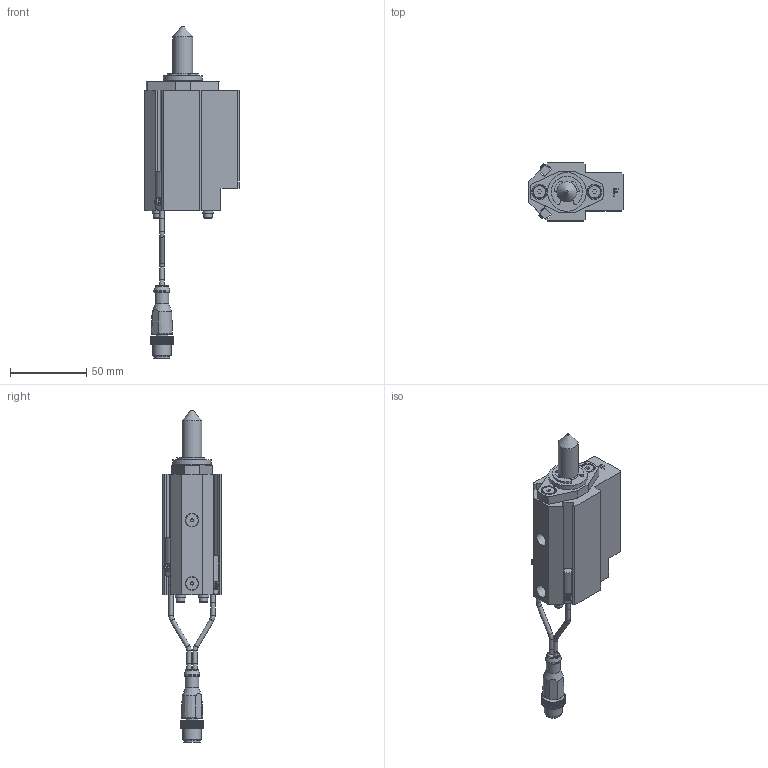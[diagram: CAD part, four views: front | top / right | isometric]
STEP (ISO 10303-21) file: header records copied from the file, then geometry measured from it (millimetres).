
FILE_DESCRIPTION(/* description */ ('NAAMS FLOATING MICRO PIN'),/* implementation_level */ '2;1');
FILE_NAME(/* name */ 'C:\Vault Workspace\CAD\Welker\Shot Pin\NMP\NMP130022AFNL3.stp',/* time_stamp */ '2021-01-27T10:56:55-05:00',/* author */ ('WELKER'),/* organization */ (''),/* preprocessor_version */ 'ST-DEVELOPER v18.1',/* originating_system */ 'Autodesk Inventor 2020',/* authorisation */ '');
FILE_SCHEMA (('AUTOMOTIVE_DESIGN { 1 0 10303 214 3 1 1 }'));
Length unit declared in the file: millimetre
Products named in the file (16): NMPL01; NMP L3 SWITCH; L3 Connector; L3 Sensor 1; L3 Sensor 2; L3 Sensor cable; L3 Sensor cable 2; M3X0.5-8 SHCS; NL3; NMPE06; NMPE03; NMPE05-DIA-LENGTH; 985432A218; NMPE01F-PORT; RMPE02; M5X5 SHOULDER
Assembly tree (22 placements, depth 3):
  NMPL01
    NMP L3 SWITCH
      L3 Connector
      L3 Sensor 1
      L3 Sensor 2
      L3 Sensor cable
      L3 Sensor cable 2
    M3X0.5-8 SHCS  x4
    NL3  x4
    NMPE06
    NMPE03
    NMPE05-DIA-LENGTH
    985432A218
    NMPE01F-PORT
    RMPE02
    M5X5 SHOULDER  x2
Bounding box: 62 x 38.1 x 217.71 mm (x, y, z)
Volume: 114707.4 mm3; surface area: 45310.4 mm2
Topology: 21 solids, 21 shells, 744 faces, 2017 edges, 1348 vertices
Faces by surface type: plane 550, cylinder 143, cone 35, torus 11, sphere 3, bspline 2
Full cylindrical faces by diameter (mm): 2 x2, 2.459 x4, 2.9 x10, 3 x5, 3.242 x2, 3.4 x4, 4 x2, 5 x6, 5.5 x4, 7 x4, 8 x2, 8.3 x2, 8.376 x2, 9 x3, 10 x3, 10.4 x1, 10.5 x1, 12 x1, 13 x3, 16 x2, 19.05 x3, 21 x1, 22.5 x1, 23.672 x1, 24 x1, 25.4 x1, 25.5 x1, 26.5 x1, 28.677 x1, 29.21 x1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
Entity records: 22719 total; most frequent: CARTESIAN_POINT 4156, ORIENTED_EDGE 3728, DIRECTION 3712, EDGE_CURVE 1864, LINE 1380, VECTOR 1380, VERTEX_POINT 1253, AXIS2_PLACEMENT_3D 1166
